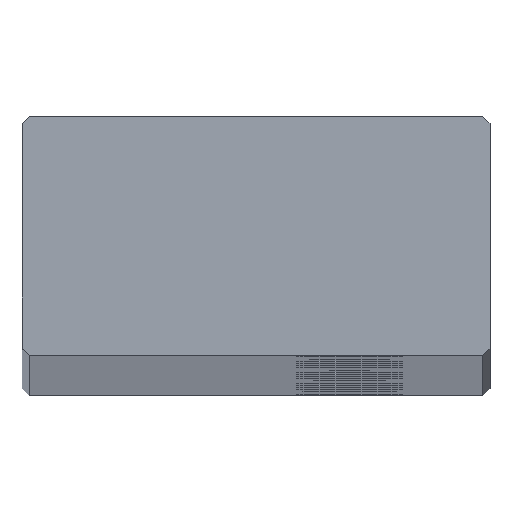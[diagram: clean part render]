
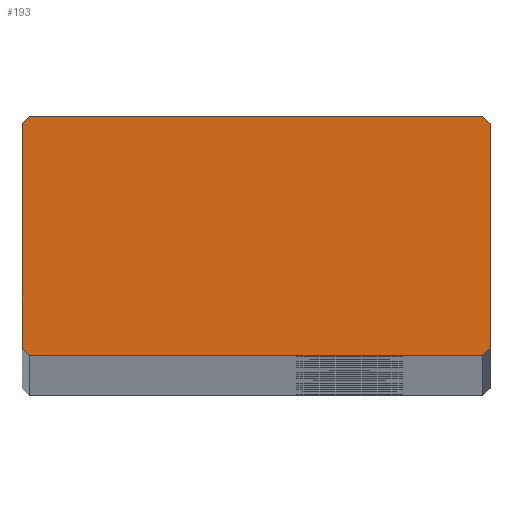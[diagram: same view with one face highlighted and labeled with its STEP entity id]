
A CAD part, top view. The second image highlights one B-rep face of the part: STEP entity #193.
In plain terms, the highlighted planar face has unit normal (0, 0, 1).
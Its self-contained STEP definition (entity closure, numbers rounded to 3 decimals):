
#193=ADVANCED_FACE('',(#498),#499,.T.);
#498=FACE_OUTER_BOUND('',#804,.T.);
#499=PLANE('',#805);
#804=EDGE_LOOP('',(#1722,#1723,#1724,#1725,#1726,#1727,#1728,#1729));
#805=AXIS2_PLACEMENT_3D('',#1730,#1731,#1732);
#1722=ORIENTED_EDGE('',*,*,#2008,.F.);
#1723=ORIENTED_EDGE('',*,*,#2030,.F.);
#1724=ORIENTED_EDGE('',*,*,#2027,.F.);
#1725=ORIENTED_EDGE('',*,*,#2024,.F.);
#1726=ORIENTED_EDGE('',*,*,#2021,.F.);
#1727=ORIENTED_EDGE('',*,*,#2018,.F.);
#1728=ORIENTED_EDGE('',*,*,#2015,.F.);
#1729=ORIENTED_EDGE('',*,*,#2012,.F.);
#1730=CARTESIAN_POINT('',(0.,10.2,1976.0));
#1731=DIRECTION('',(0.0,0.0,1.0));
#1732=DIRECTION('',(1.0,0.0,0.0));
#2008=EDGE_CURVE('',#2472,#2473,#2474,.T.);
#2012=EDGE_CURVE('',#2473,#2480,#2481,.T.);
#2015=EDGE_CURVE('',#2480,#2485,#2486,.T.);
#2018=EDGE_CURVE('',#2485,#2490,#2491,.T.);
#2021=EDGE_CURVE('',#2490,#2495,#2496,.T.);
#2024=EDGE_CURVE('',#2495,#2500,#2501,.T.);
#2027=EDGE_CURVE('',#2500,#2505,#2506,.T.);
#2030=EDGE_CURVE('',#2505,#2472,#2510,.T.);
#2472=VERTEX_POINT('',#3040);
#2473=VERTEX_POINT('',#3041);
#2474=LINE('',#3042,#3043);
#2480=VERTEX_POINT('',#3052);
#2481=LINE('',#3053,#3054);
#2485=VERTEX_POINT('',#3060);
#2486=LINE('',#3061,#3062);
#2490=VERTEX_POINT('',#3068);
#2491=LINE('',#3069,#3070);
#2495=VERTEX_POINT('',#3076);
#2496=LINE('',#3077,#3078);
#2500=VERTEX_POINT('',#3084);
#2501=LINE('',#3085,#3086);
#2505=VERTEX_POINT('',#3092);
#2506=LINE('',#3093,#3094);
#2510=LINE('',#3100,#3101);
#3040=CARTESIAN_POINT('',(-19.4,0.,1976.0));
#3041=CARTESIAN_POINT('',(-20.0,0.6,1976.0));
#3042=CARTESIAN_POINT('',(-19.4,0.,1976.0));
#3043=VECTOR('',#3720,1.0);
#3052=CARTESIAN_POINT('',(-20.0,19.8,1976.0));
#3053=CARTESIAN_POINT('',(-20.0,0.6,1976.0));
#3054=VECTOR('',#3724,1.0);
#3060=CARTESIAN_POINT('',(-19.4,20.4,1976.0));
#3061=CARTESIAN_POINT('',(-20.0,19.8,1976.0));
#3062=VECTOR('',#3727,1.0);
#3068=CARTESIAN_POINT('',(19.4,20.4,1976.0));
#3069=CARTESIAN_POINT('',(-19.4,20.4,1976.0));
#3070=VECTOR('',#3730,1.0);
#3076=CARTESIAN_POINT('',(20.0,19.8,1976.0));
#3077=CARTESIAN_POINT('',(19.4,20.4,1976.0));
#3078=VECTOR('',#3733,1.0);
#3084=CARTESIAN_POINT('',(20.0,0.6,1976.0));
#3085=CARTESIAN_POINT('',(20.0,0.6,1976.0));
#3086=VECTOR('',#3736,1.0);
#3092=CARTESIAN_POINT('',(19.4,0.,1976.0));
#3093=CARTESIAN_POINT('',(19.4,0.,1976.0));
#3094=VECTOR('',#3739,1.0);
#3100=CARTESIAN_POINT('',(-19.4,0.,1976.0));
#3101=VECTOR('',#3742,1.0);
#3720=DIRECTION('',(-0.707,0.707,0.0));
#3724=DIRECTION('',(0.0,1.0,0.0));
#3727=DIRECTION('',(0.707,0.707,0.0));
#3730=DIRECTION('',(1.0,0.0,0.0));
#3733=DIRECTION('',(0.707,-0.707,0.0));
#3736=DIRECTION('',(-0.0,-1.0,-0.0));
#3739=DIRECTION('',(-0.707,-0.707,-0.0));
#3742=DIRECTION('',(-1.0,-0.0,-0.0));
